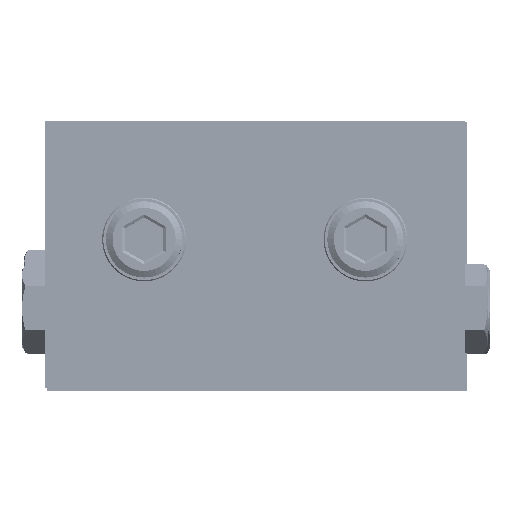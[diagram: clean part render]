
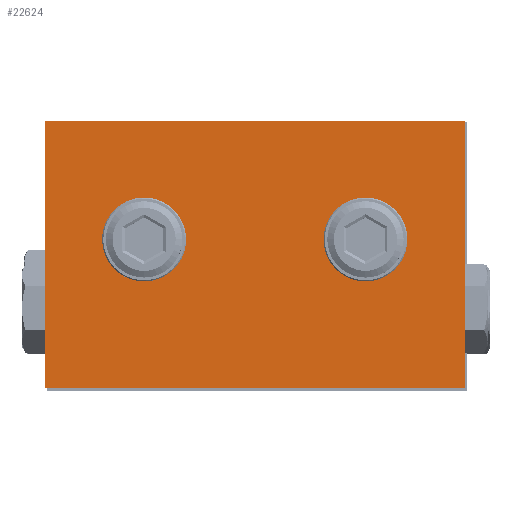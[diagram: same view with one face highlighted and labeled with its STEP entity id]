
A CAD part, top view. The second image highlights one B-rep face of the part: STEP entity #22624.
In plain terms, the highlighted planar face has unit normal (0, 0, 1) as drawn and (0, 0, -1) by its records, which use the part's own axes.
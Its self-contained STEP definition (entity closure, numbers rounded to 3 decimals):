
#99 = CARTESIAN_POINT ( 'NONE',  ( -11.4, -15.5, -4.85 ) ) ;
#696 = VECTOR ( 'NONE', #5758, 1000. ) ;
#1705 = VERTEX_POINT ( 'NONE', #24703 ) ;
#2187 = EDGE_CURVE ( 'NONE', #11521, #1705, #12451, .T. ) ;
#2323 = ORIENTED_EDGE ( 'NONE', *, *, #2187, .F. ) ;
#2663 = ORIENTED_EDGE ( 'NONE', *, *, #30135, .F. ) ;
#3632 = CIRCLE ( 'NONE', #36174, 3.1 ) ;
#3773 = LINE ( 'NONE', #12251, #29010 ) ;
#5117 = CIRCLE ( 'NONE', #17114, 3.1 ) ;
#5758 = DIRECTION ( 'NONE',  ( 0., -1., 0. ) ) ;
#6489 = CARTESIAN_POINT ( 'NONE',  ( 11.4, -15.5, -4.85 ) ) ;
#8151 = PLANE ( 'NONE',  #25242 ) ;
#9083 = EDGE_CURVE ( 'NONE', #1705, #14644, #25740, .T. ) ;
#9610 = EDGE_CURVE ( 'NONE', #14644, #30137, #3773, .T. ) ;
#9805 = DIRECTION ( 'NONE',  ( 1., 0., 0. ) ) ;
#10780 = DIRECTION ( 'NONE',  ( 1., 0., 0. ) ) ;
#11521 = VERTEX_POINT ( 'NONE', #36890 ) ;
#11827 = ORIENTED_EDGE ( 'NONE', *, *, #12542, .F. ) ;
#11922 = DIRECTION ( 'NONE',  ( 0., 1., 0. ) ) ;
#12251 = CARTESIAN_POINT ( 'NONE',  ( 0., -35., -4.85 ) ) ;
#12451 = LINE ( 'NONE', #26974, #22591 ) ;
#12542 = EDGE_CURVE ( 'NONE', #14416, #14416, #5117, .T. ) ;
#14416 = VERTEX_POINT ( 'NONE', #99 ) ;
#14644 = VERTEX_POINT ( 'NONE', #33656 ) ;
#17114 = AXIS2_PLACEMENT_3D ( 'NONE', #36019, #35847, #9805 ) ;
#18315 = VERTEX_POINT ( 'NONE', #6489 ) ;
#20006 = EDGE_LOOP ( 'NONE', ( #34484 ) ) ;
#22285 = VECTOR ( 'NONE', #11922, 1000. ) ;
#22417 = FACE_BOUND ( 'NONE', #20006, .T. ) ;
#22591 = VECTOR ( 'NONE', #35859, 1000. ) ;
#22624 = ADVANCED_FACE ( 'NONE', ( #28332, #22417, #25498 ), #8151, .F. ) ;
#24074 = ORIENTED_EDGE ( 'NONE', *, *, #9610, .F. ) ;
#24354 = EDGE_LOOP ( 'NONE', ( #2323, #2663, #24074, #24725 ) ) ;
#24703 = CARTESIAN_POINT ( 'NONE',  ( -27.5, 0., -4.85 ) ) ;
#24725 = ORIENTED_EDGE ( 'NONE', *, *, #9083, .F. ) ;
#24998 = DIRECTION ( 'NONE',  ( 0., 0., -1. ) ) ;
#25242 = AXIS2_PLACEMENT_3D ( 'NONE', #27968, #36628, #10780 ) ;
#25498 = FACE_OUTER_BOUND ( 'NONE', #24354, .T. ) ;
#25740 = LINE ( 'NONE', #31635, #696 ) ;
#26974 = CARTESIAN_POINT ( 'NONE',  ( 0., 0., -4.85 ) ) ;
#27215 = CARTESIAN_POINT ( 'NONE',  ( 27.5, 0., -4.85 ) ) ;
#27968 = CARTESIAN_POINT ( 'NONE',  ( 0., 0., -4.85 ) ) ;
#28332 = FACE_BOUND ( 'NONE', #29525, .T. ) ;
#28390 = DIRECTION ( 'NONE',  ( -1., 0., 0. ) ) ;
#29010 = VECTOR ( 'NONE', #35294, 1000. ) ;
#29488 = LINE ( 'NONE', #27215, #22285 ) ;
#29525 = EDGE_LOOP ( 'NONE', ( #11827 ) ) ;
#30135 = EDGE_CURVE ( 'NONE', #30137, #11521, #29488, .T. ) ;
#30137 = VERTEX_POINT ( 'NONE', #32711 ) ;
#31635 = CARTESIAN_POINT ( 'NONE',  ( -27.5, 0., -4.85 ) ) ;
#32711 = CARTESIAN_POINT ( 'NONE',  ( 27.5, -35., -4.85 ) ) ;
#33656 = CARTESIAN_POINT ( 'NONE',  ( -27.5, -35., -4.85 ) ) ;
#33695 = CARTESIAN_POINT ( 'NONE',  ( 14.5, -15.5, -4.85 ) ) ;
#34484 = ORIENTED_EDGE ( 'NONE', *, *, #35779, .F. ) ;
#35294 = DIRECTION ( 'NONE',  ( 1., 0., 0. ) ) ;
#35779 = EDGE_CURVE ( 'NONE', #18315, #18315, #3632, .T. ) ;
#35847 = DIRECTION ( 'NONE',  ( 0., 0., -1. ) ) ;
#35859 = DIRECTION ( 'NONE',  ( -1., 0., 0. ) ) ;
#36019 = CARTESIAN_POINT ( 'NONE',  ( -14.5, -15.5, -4.85 ) ) ;
#36174 = AXIS2_PLACEMENT_3D ( 'NONE', #33695, #24998, #28390 ) ;
#36628 = DIRECTION ( 'NONE',  ( 0., 0., 1. ) ) ;
#36890 = CARTESIAN_POINT ( 'NONE',  ( 27.5, 0., -4.85 ) ) ;
